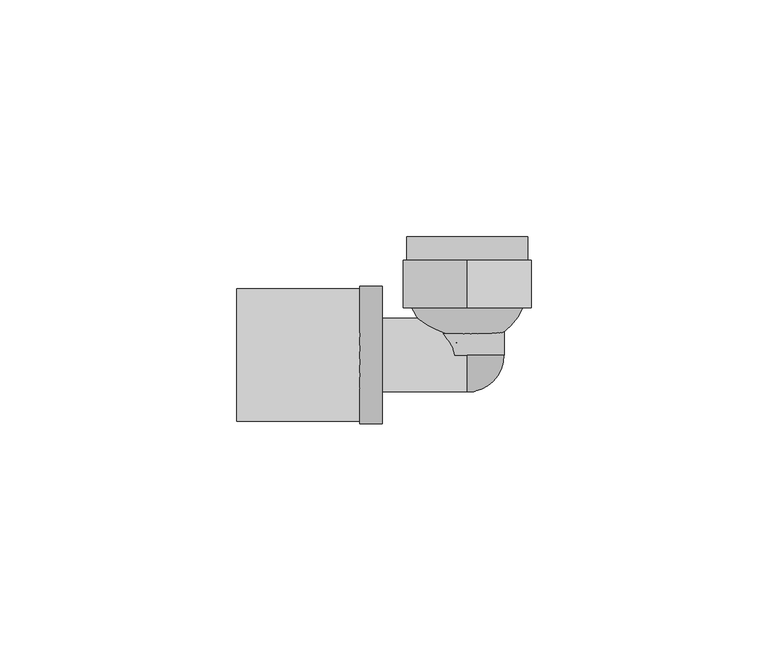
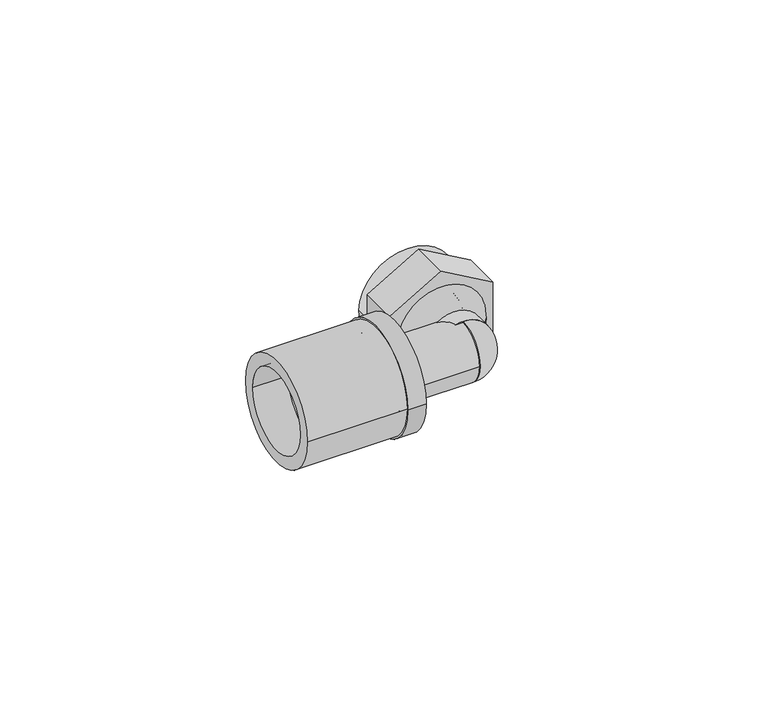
"""IFC4 building model written with IfcOpenShell, lengths in millimetres: pipe fitting geometry, FASTLOC_Elbow with female thread EX+ : FSL A internal AT."""

from ifc_helpers import new_model, si_unit, point, frame, origin, origin_2d, place, context, project, spatial, polyline, circle_curve, ellipse_curve, trimmed, segment, composite_curve, outline, extrude, source, transform, mapped, element, save
from ifc_brep_helpers import plane_surface, cylinder_surface, revolved_surface, advanced_brep


def pipe_fitting_d7e847e2(model_context):
    return source(origin(), model_context, "Body", "SolidModel", [
        extrude(outline(composite_curve([segment(trimmed(circle_curve(origin_2d(), 14.0), [point((14.0, 0.0))], [point((-14.0, 0.0))], False, "CARTESIAN"), True, "CONTINUOUS"), segment(trimmed(circle_curve(origin_2d(), 14.0), [point((-14.0, 0.0))], [point((14.0, 0.0))], False, "CARTESIAN"), True, "CONTINUOUS")], self_intersect=False), holes=[composite_curve([segment(trimmed(circle_curve(origin_2d(), 10.7), [point((10.7, 0.0))], [point((-10.7, 0.0))], True, "CARTESIAN"), True, "CONTINUOUS"), segment(trimmed(circle_curve(origin_2d(), 10.7), [point((-10.7, 0.0))], [point((10.7, 0.0))], True, "CARTESIAN"), True, "CONTINUOUS")], self_intersect=False)]), frame((-48.7, 0.0, 0.0), z_axis=(1.0, 0.0, 0.0), x_axis=(0.0, 1.0, 0.0)), (0.0, 0.0, 1.0), 26.0),
        advanced_brep(
        [(-22.7, -14.5, 0.0), (-22.7, 14.5, 0.0), (-18.0, 14.5, 0.0), (-18.0, -14.5, 0.0), (-39.7, -11.85, 0.0), (-39.7, 11.85, 0.0), (-22.7, 11.85, 0.0), (-22.7, -11.85, 0.0), (-18.0, -10.15, 0.0), (-18.0, 10.15, 0.0), (-39.7, 10.15, 0.0), (-39.7, -10.15, 0.0)],
        [
            (0, 1, circle_curve(frame((-22.7, 0.0, 0.0), z_axis=(1.0, 0.0, 0.0), x_axis=(0.0, 1.0, 0.0)), 14.5)),
            (1, 2),
            (2, 3, circle_curve(frame((-18.0, 0.0, 0.0), z_axis=(-1.0, 0.0, 0.0), x_axis=(0.0, 1.0, 0.0)), 14.5)),
            (3, 0),
            (4, 5, circle_curve(frame((-39.7, 0.0, 0.0), z_axis=(1.0, 0.0, 0.0), x_axis=(0.0, 1.0, 0.0)), 11.85)),
            (5, 6),
            (6, 7, circle_curve(frame((-22.7, 0.0, 0.0), z_axis=(-1.0, 0.0, 0.0), x_axis=(0.0, 1.0, 0.0)), 11.85)),
            (7, 4),
            (8, 9, circle_curve(frame((-18.0, 0.0, 0.0), z_axis=(1.0, 0.0, 0.0), x_axis=(0.0, 1.0, 0.0)), 10.15)),
            (9, 10),
            (10, 11, circle_curve(frame((-39.7, 0.0, 0.0), z_axis=(-1.0, 0.0, 0.0), x_axis=(0.0, 1.0, 0.0)), 10.15)),
            (11, 8),
            (1, 0, circle_curve(frame((-22.7, 0.0, 0.0), z_axis=(1.0, 0.0, 0.0), x_axis=(0.0, -1.0, 0.0)), 14.5)),
            (3, 2, circle_curve(frame((-18.0, 0.0, 0.0), z_axis=(-1.0, 0.0, 0.0), x_axis=(0.0, -1.0, 0.0)), 14.5)),
            (6, 7, circle_curve(frame((-22.7, 0.0, 0.0), z_axis=(1.0, 0.0, 0.0), x_axis=(0.0, -1.0, 0.0)), 11.85)),
            (5, 4, circle_curve(frame((-39.7, 0.0, 0.0), z_axis=(1.0, 0.0, 0.0), x_axis=(0.0, -1.0, 0.0)), 11.85)),
            (10, 11, circle_curve(frame((-39.7, 0.0, 0.0), z_axis=(1.0, 0.0, 0.0), x_axis=(0.0, -1.0, 0.0)), 10.15)),
            (9, 8, circle_curve(frame((-18.0, 0.0, 0.0), z_axis=(1.0, 0.0, 0.0), x_axis=(0.0, -1.0, 0.0)), 10.15)),
        ],
        [
            cylinder_surface(frame((-18.0, 0.0, 0.0), z_axis=(-1.0, 0.0, 0.0), x_axis=(0.0, 1.0, 0.0)), 14.5),
            cylinder_surface(frame((-18.0, 0.0, 0.0), z_axis=(-1.0, 0.0, 0.0), x_axis=(0.0, 1.0, 0.0)), 11.85),
            revolved_surface(polyline([(-39.7, 10.15, 0.0), (-18.0, 10.15, 0.0)]), (-18.0, 0.0, 0.0), (-1.0, 0.0, 0.0)),
            cylinder_surface(frame((-18.0, 0.0, 0.0), z_axis=(-1.0, 0.0, 0.0), x_axis=(0.0, -1.0, 0.0)), 14.5),
            plane_surface(frame((-22.7, 0.0, 0.0), z_axis=(-1.0, 0.0, 0.0), x_axis=(0.0, -1.0, 0.0))),
            cylinder_surface(frame((-18.0, 0.0, 0.0), z_axis=(-1.0, 0.0, 0.0), x_axis=(0.0, -1.0, 0.0)), 11.85),
            plane_surface(frame((-39.7, 0.0, 0.0), z_axis=(-1.0, 0.0, 0.0), x_axis=(0.0, -1.0, 0.0))),
            revolved_surface(polyline([(-39.7, -10.15, 0.0), (-18.0, -10.15, 0.0)]), (-18.0, 0.0, 0.0), (-1.0, 0.0, 0.0)),
            plane_surface(frame((-18.0, 0.0, 0.0), z_axis=(1.0, 0.0, 0.0), x_axis=(0.0, -1.0, 0.0))),
        ],
        [
            (0, [[1, 2, 3, 4]]),
            (1, [[5, 6, 7, 8]]),
            (2, [[9, 10, 11, 12]]),
            (3, [[13, -4, 14, -2]]),
            (4, [[-13, -1], [15, -7]]),
            (5, [[16, -8, -15, -6]]),
            (6, [[-16, -5], [17, -11]]),
            (7, [[18, -12, -17, -10]]),
            (8, [[-14, -3], [-18, -9]]),
        ],
    ),
        advanced_brep(
        [(0.0, 0.0, 7.75), (0.0, 0.0, 3.875), (0.0, -3.875, 0.0), (0.0, -7.75, 0.0), (0.0, 0.0, -7.75), (0.0, 0.0, -3.875)],
        [
            (0, 1),
            (1, 2, circle_curve(frame((0.0, 0.0, 0.0), z_axis=(1.0, 0.0, 0.0), x_axis=(0.0, 0.0, 1.0)), 3.875)),
            (2, 3),
            (3, 0, circle_curve(frame((0.0, 0.0, 0.0), z_axis=(-1.0, 0.0, 0.0), x_axis=(0.0, 0.0, 1.0)), 7.75)),
            (4, 3, circle_curve(frame((0.0, 0.0, 0.0), z_axis=(-1.0, 0.0, 0.0), x_axis=(0.0, 0.0, -1.0)), 7.75)),
            (2, 5, circle_curve(frame((0.0, 0.0, 0.0), z_axis=(1.0, 0.0, 0.0), x_axis=(0.0, 0.0, -1.0)), 3.875)),
            (5, 4),
            (5, 1, circle_curve(frame((0.0, 0.0, 0.0), z_axis=(0.0, -1.0, 0.0), x_axis=(0.0, 0.0, 1.0)), 3.875)),
            (0, 4, circle_curve(frame((0.0, 0.0, 0.0), z_axis=(0.0, 1.0, 0.0), x_axis=(0.0, 0.0, 1.0)), 7.75)),
        ],
        [
            plane_surface(frame((0.0, 0.0, 0.0), z_axis=(-1.0, 0.0, 0.0), x_axis=(0.0, 0.0, 1.0))),
            plane_surface(frame((0.0, 0.0, 0.0), z_axis=(-1.0, 0.0, 0.0), x_axis=(0.0, 0.0, -1.0))),
            plane_surface(frame((0.0, 0.0, 0.0), z_axis=(0.0, 1.0, 0.0), x_axis=(0.0, 0.0, 1.0))),
            revolved_surface(trimmed(ellipse_curve(frame((0.0, 0.0, 0.0), z_axis=(1.0, 0.0, 0.0), x_axis=(0.0, 0.0, 1.0)), 3.875, 3.875), [point((0.0, 0.0, 3.875))], [point((0.0, -3.875, 0.0))], True, "CARTESIAN"), (0.0, 0.0, 0.0), (0.0, 1.0, 0.0)),
            revolved_surface(trimmed(ellipse_curve(frame((0.0, 0.0, 0.0), z_axis=(-1.0, 0.0, 0.0), x_axis=(0.0, 0.0, 1.0)), 7.75, 7.75), [point((0.0, -7.75, 0.0))], [point((0.0, 0.0, 7.75))], True, "CARTESIAN"), (0.0, 0.0, 0.0), (0.0, 1.0, 0.0)),
        ],
        [
            (0, [[1, 2, 3, 4]]),
            (1, [[5, -3, 6, 7]]),
            (2, [[8, -1, 9, -7]]),
            (3, [[-2, -8, -6]]),
            (4, [[-9, -4, -5]]),
        ],
    ),
        extrude(outline(polyline([(-7.7942286, 13.5), (7.7942286, 13.5), (15.5884573, 0.0), (7.7942286, -13.5), (-7.7942286, -13.5), (-15.5884573, 0.0), (-7.7942286, 13.5)])), frame((0.0, 10.0, 0.0), z_axis=(0.0, 1.0, 0.0), x_axis=(0.0, 0.0, 1.0)), (0.0, 0.0, 1.0), 10.0),
        advanced_brep(
        [(0.5, 2.2598077, 0.0), (-0.5, 2.2598077, 0.0), (-12.75, 15.0, 0.0), (12.75, 15.0, 0.0), (0.5, 7.5166852, 0.0), (-0.5, 7.5166852, 0.0), (7.5, 15.0, 0.0), (-7.5, 15.0, 0.0), (7.5, 25.0, 0.0), (-7.5, 25.0, 0.0), (-12.75, 25.0, 0.0), (12.75, 25.0, 0.0)],
        [
            (0, 1, circle_curve(frame((0.0, 2.2598077, 0.0), z_axis=(0.0, 1.0, 0.0), x_axis=(-1.0, 0.0, 0.0)), 0.5)),
            (1, 2, circle_curve(frame((0.0, 15.0, 0.0), z_axis=(0.0, 0.0, -1.0), x_axis=(0.0, 1.0, 0.0)), 12.75)),
            (2, 3, circle_curve(frame((0.0, 15.0, 0.0), z_axis=(0.0, -1.0, 0.0), x_axis=(-1.0, 0.0, 0.0)), 12.75)),
            (3, 0, circle_curve(frame((0.0, 15.0, 0.0), z_axis=(0.0, 0.0, -1.0), x_axis=(0.0, 1.0, 0.0)), 12.75)),
            (4, 5, circle_curve(frame((0.0, 7.5166852, 0.0), z_axis=(0.0, 1.0, 0.0), x_axis=(-1.0, 0.0, 0.0)), 0.5)),
            (5, 1),
            (0, 4),
            (6, 7, circle_curve(frame((0.0, 15.0, 0.0), z_axis=(0.0, 1.0, 0.0), x_axis=(-1.0, 0.0, 0.0)), 7.5)),
            (7, 5, circle_curve(frame((0.0, 15.0, 0.0), z_axis=(0.0, 0.0, 1.0), x_axis=(0.0, 1.0, 0.0)), 7.5)),
            (4, 6, circle_curve(frame((0.0, 15.0, 0.0), z_axis=(0.0, 0.0, 1.0), x_axis=(0.0, 1.0, 0.0)), 7.5)),
            (8, 9, circle_curve(frame((0.0, 25.0, 0.0), z_axis=(0.0, 1.0, 0.0), x_axis=(-1.0, 0.0, 0.0)), 7.5)),
            (9, 7),
            (6, 8),
            (2, 10),
            (10, 11, circle_curve(frame((0.0, 25.0, 0.0), z_axis=(0.0, -1.0, 0.0), x_axis=(-1.0, 0.0, 0.0)), 12.75)),
            (11, 3),
            (1, 0, circle_curve(frame((0.0, 2.2598077, 0.0), z_axis=(0.0, 1.0, 0.0), x_axis=(1.0, 0.0, 0.0)), 0.5)),
            (3, 2, circle_curve(frame((0.0, 15.0, 0.0), z_axis=(0.0, -1.0, 0.0), x_axis=(1.0, 0.0, 0.0)), 12.75)),
            (5, 4, circle_curve(frame((0.0, 7.5166852, 0.0), z_axis=(0.0, 1.0, 0.0), x_axis=(1.0, 0.0, 0.0)), 0.5)),
            (7, 6, circle_curve(frame((0.0, 15.0, 0.0), z_axis=(0.0, 1.0, 0.0), x_axis=(1.0, 0.0, 0.0)), 7.5)),
            (9, 8, circle_curve(frame((0.0, 25.0, 0.0), z_axis=(0.0, 1.0, 0.0), x_axis=(1.0, 0.0, 0.0)), 7.5)),
            (10, 11, circle_curve(frame((0.0, 25.0, 0.0), z_axis=(0.0, 1.0, 0.0), x_axis=(1.0, 0.0, 0.0)), 12.75)),
        ],
        [
            revolved_surface(trimmed(ellipse_curve(frame((0.0, 15.0, 0.0), z_axis=(0.0, 0.0, 1.0), x_axis=(0.0, 1.0, 0.0)), 12.75, 12.75), [point((-12.75, 15.0, 0.0))], [point((-0.5, 2.2598077, 0.0))], True, "CARTESIAN"), (0.0, 10.0, 0.0), (0.0, -1.0, 0.0)),
            revolved_surface(polyline([(-0.5, 2.2598076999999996, 0.0), (-0.5, 7.5166852, 0.0)]), (0.0, 10.0, 0.0), (0.0, -1.0, 0.0)),
            revolved_surface(trimmed(ellipse_curve(frame((0.0, 15.0, 0.0), z_axis=(0.0, 0.0, -1.0), x_axis=(0.0, 1.0, 0.0)), 7.5, 7.5), [point((-0.5, 7.5166852, 0.0))], [point((-7.5, 15.0, 0.0))], True, "CARTESIAN"), (0.0, 10.0, 0.0), (0.0, -1.0, 0.0)),
            revolved_surface(polyline([(-7.5, 15.0, 0.0), (-7.5, 25.0, 0.0)]), (0.0, 10.0, 0.0), (0.0, -1.0, 0.0)),
            cylinder_surface(frame((0.0, 10.0, 0.0), z_axis=(0.0, -1.0, 0.0), x_axis=(-1.0, 0.0, 0.0)), 12.75),
            revolved_surface(trimmed(ellipse_curve(frame((0.0, 15.0, 0.0), z_axis=(0.0, 0.0, -1.0), x_axis=(0.0, 1.0, 0.0)), 12.75, 12.75), [point((12.75, 15.0, 0.0))], [point((0.5, 2.2598077, 0.0))], True, "CARTESIAN"), (0.0, 10.0, 0.0), (0.0, -1.0, 0.0)),
            revolved_surface(polyline([(0.5, 2.2598076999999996, 0.0), (0.5, 7.5166852, 0.0)]), (0.0, 10.0, 0.0), (0.0, -1.0, 0.0)),
            revolved_surface(trimmed(ellipse_curve(frame((0.0, 15.0, 0.0), z_axis=(0.0, 0.0, 1.0), x_axis=(0.0, 1.0, 0.0)), 7.5, 7.5), [point((0.5, 7.5166852, 0.0))], [point((7.5, 15.0, 0.0))], True, "CARTESIAN"), (0.0, 10.0, 0.0), (0.0, -1.0, 0.0)),
            revolved_surface(polyline([(7.5, 15.0, 0.0), (7.5, 25.0, 0.0)]), (0.0, 10.0, 0.0), (0.0, -1.0, 0.0)),
            plane_surface(frame((0.0, 25.0, 0.0), z_axis=(0.0, 1.0, 0.0), x_axis=(1.0, 0.0, 0.0))),
            cylinder_surface(frame((0.0, 10.0, 0.0), z_axis=(0.0, -1.0, 0.0), x_axis=(1.0, 0.0, 0.0)), 12.75),
        ],
        [
            (0, [[1, 2, 3, 4]]),
            (1, [[5, 6, -1, 7]]),
            (2, [[8, 9, -5, 10]]),
            (3, [[11, 12, -8, 13]]),
            (4, [[-3, 14, 15, 16]]),
            (5, [[17, -4, 18, -2]]),
            (6, [[19, -7, -17, -6]]),
            (7, [[20, -10, -19, -9]]),
            (8, [[21, -13, -20, -12]]),
            (9, [[22, -15], [-21, -11]]),
            (10, [[-18, -16, -22, -14]]),
        ],
    ),
        extrude(outline(composite_curve([segment(trimmed(circle_curve(origin_2d(), 7.75), [point((0.0, -7.75))], [point((0.0, 7.75))], False, "CARTESIAN"), True, "CONTINUOUS"), segment(trimmed(circle_curve(origin_2d(), 7.75), [point((0.0, 7.75))], [point((0.0, -7.75))], False, "CARTESIAN"), True, "CONTINUOUS")], self_intersect=False), holes=[composite_curve([segment(trimmed(circle_curve(origin_2d(), 5.75), [point((0.0, -5.75))], [point((0.0, 5.75))], True, "CARTESIAN"), True, "CONTINUOUS"), segment(trimmed(circle_curve(origin_2d(), 5.75), [point((0.0, 5.75))], [point((0.0, -5.75))], True, "CARTESIAN"), True, "CONTINUOUS")], self_intersect=False)]), frame((0.0, 0.0, 0.0), z_axis=(0.0, 1.0, 0.0), x_axis=(0.0, 0.0, 1.0)), (0.0, 0.0, 1.0), 10.0),
        advanced_brep(
        [(-22.7, 7.75, 0.0), (-22.7, -7.75, 0.0), (-40.1, -7.75, 0.0), (-40.1, 7.75, 0.0), (-20.0, 8.8, 0.0), (-20.0, -8.8, 0.0), (-22.7, -8.8, 0.0), (-22.7, 8.8, 0.0), (0.0, 7.75, 0.0), (0.0, -7.75, 0.0), (-20.0, -7.75, 0.0), (-20.0, 7.75, 0.0), (-40.1, 5.75, 0.0), (-40.1, -5.75, 0.0), (0.0, -5.75, 0.0), (0.0, 5.75, 0.0)],
        [
            (0, 1, circle_curve(frame((-22.7, 0.0, 0.0), z_axis=(-1.0, 0.0, 0.0), x_axis=(0.0, -1.0, 0.0)), 7.75)),
            (1, 2),
            (2, 3, circle_curve(frame((-40.1, 0.0, 0.0), z_axis=(1.0, 0.0, 0.0), x_axis=(0.0, -1.0, 0.0)), 7.75)),
            (3, 0),
            (4, 5, circle_curve(frame((-20.0, 0.0, 0.0), z_axis=(-1.0, 0.0, 0.0), x_axis=(0.0, -1.0, 0.0)), 8.8)),
            (5, 6),
            (6, 7, circle_curve(frame((-22.7, 0.0, 0.0), z_axis=(1.0, 0.0, 0.0), x_axis=(0.0, -1.0, 0.0)), 8.8)),
            (7, 4),
            (8, 9, circle_curve(frame((0.0, 0.0, 0.0), z_axis=(-1.0, 0.0, 0.0), x_axis=(0.0, -1.0, 0.0)), 7.75)),
            (9, 10),
            (10, 11, circle_curve(frame((-20.0, 0.0, 0.0), z_axis=(1.0, 0.0, 0.0), x_axis=(0.0, -1.0, 0.0)), 7.75)),
            (11, 8),
            (12, 13, circle_curve(frame((-40.1, 0.0, 0.0), z_axis=(-1.0, 0.0, 0.0), x_axis=(0.0, -1.0, 0.0)), 5.75)),
            (13, 14),
            (14, 15, circle_curve(frame((0.0, 0.0, 0.0), z_axis=(1.0, 0.0, 0.0), x_axis=(0.0, -1.0, 0.0)), 5.75)),
            (15, 12),
            (2, 3, circle_curve(frame((-40.1, 0.0, 0.0), z_axis=(-1.0, 0.0, 0.0), x_axis=(0.0, 1.0, 0.0)), 7.75)),
            (12, 13, circle_curve(frame((-40.1, 0.0, 0.0), z_axis=(1.0, 0.0, 0.0), x_axis=(0.0, 1.0, 0.0)), 5.75)),
            (1, 0, circle_curve(frame((-22.7, 0.0, 0.0), z_axis=(-1.0, 0.0, 0.0), x_axis=(0.0, 1.0, 0.0)), 7.75)),
            (6, 7, circle_curve(frame((-22.7, 0.0, 0.0), z_axis=(-1.0, 0.0, 0.0), x_axis=(0.0, 1.0, 0.0)), 8.8)),
            (5, 4, circle_curve(frame((-20.0, 0.0, 0.0), z_axis=(-1.0, 0.0, 0.0), x_axis=(0.0, 1.0, 0.0)), 8.8)),
            (10, 11, circle_curve(frame((-20.0, 0.0, 0.0), z_axis=(-1.0, 0.0, 0.0), x_axis=(0.0, 1.0, 0.0)), 7.75)),
            (9, 8, circle_curve(frame((0.0, 0.0, 0.0), z_axis=(-1.0, 0.0, 0.0), x_axis=(0.0, 1.0, 0.0)), 7.75)),
            (14, 15, circle_curve(frame((0.0, 0.0, 0.0), z_axis=(-1.0, 0.0, 0.0), x_axis=(0.0, 1.0, 0.0)), 5.75)),
        ],
        [
            cylinder_surface(frame((0.0, 0.0, 0.0), z_axis=(1.0, 0.0, 0.0), x_axis=(0.0, -1.0, 0.0)), 7.75),
            cylinder_surface(frame((0.0, 0.0, 0.0), z_axis=(1.0, 0.0, 0.0), x_axis=(0.0, -1.0, 0.0)), 8.8),
            revolved_surface(polyline([(0.0, -5.75, 0.0), (-40.1, -5.75, 0.0)]), (0.0, 0.0, 0.0), (1.0, 0.0, 0.0)),
            plane_surface(frame((-40.1, 0.0, 0.0), z_axis=(-1.0, 0.0, 0.0), x_axis=(0.0, 1.0, 0.0))),
            cylinder_surface(frame((0.0, 0.0, 0.0), z_axis=(1.0, 0.0, 0.0), x_axis=(0.0, 1.0, 0.0)), 7.75),
            plane_surface(frame((-22.7, 0.0, 0.0), z_axis=(-1.0, 0.0, 0.0), x_axis=(0.0, 1.0, 0.0))),
            cylinder_surface(frame((0.0, 0.0, 0.0), z_axis=(1.0, 0.0, 0.0), x_axis=(0.0, 1.0, 0.0)), 8.8),
            plane_surface(frame((-20.0, 0.0, 0.0), z_axis=(1.0, 0.0, 0.0), x_axis=(0.0, 1.0, 0.0))),
            plane_surface(frame((0.0, 0.0, 0.0), z_axis=(1.0, 0.0, 0.0), x_axis=(0.0, 1.0, 0.0))),
            revolved_surface(polyline([(0.0, 5.75, 0.0), (-40.1, 5.75, 0.0)]), (0.0, 0.0, 0.0), (1.0, 0.0, 0.0)),
        ],
        [
            (0, [[1, 2, 3, 4]]),
            (1, [[5, 6, 7, 8]]),
            (0, [[9, 10, 11, 12]]),
            (2, [[13, 14, 15, 16]]),
            (3, [[17, -3], [18, -13]]),
            (4, [[19, -4, -17, -2]]),
            (5, [[20, -7], [-19, -1]]),
            (6, [[21, -8, -20, -6]]),
            (7, [[-21, -5], [22, -11]]),
            (4, [[23, -12, -22, -10]]),
            (8, [[-23, -9], [24, -15]]),
            (9, [[-18, -16, -24, -14]]),
        ],
    ),
    ])


if __name__ == "__main__":
    model = new_model("IFC4")
    model_context = context("Model", 3, world=origin())
    ifc_project = project(units=[si_unit("LENGTHUNIT", "METRE", prefix="MILLI")], contexts=[model_context])
    site = spatial("IfcSite", under=ifc_project)
    building = spatial("IfcBuilding", under=site)
    placement = place(None, origin())
    pipe_fitting_shape = pipe_fitting_d7e847e2(model_context)
    element("IfcPipeFitting", 1, ObjectType="FASTLOC_Elbow with female thread EX+ : FSL A internal AT", at=placement, inside=building, context=model_context, shape_type="MappedRepresentation", body=[
        mapped(pipe_fitting_shape, transform((0.0, 0.0, 0.0), x_axis=(1.0, 0.0, 0.0), y_axis=(0.0, 1.0, 0.0), z_axis=(0.0, 0.0, 1.0))),
    ])
    save(model, "model.ifc")
